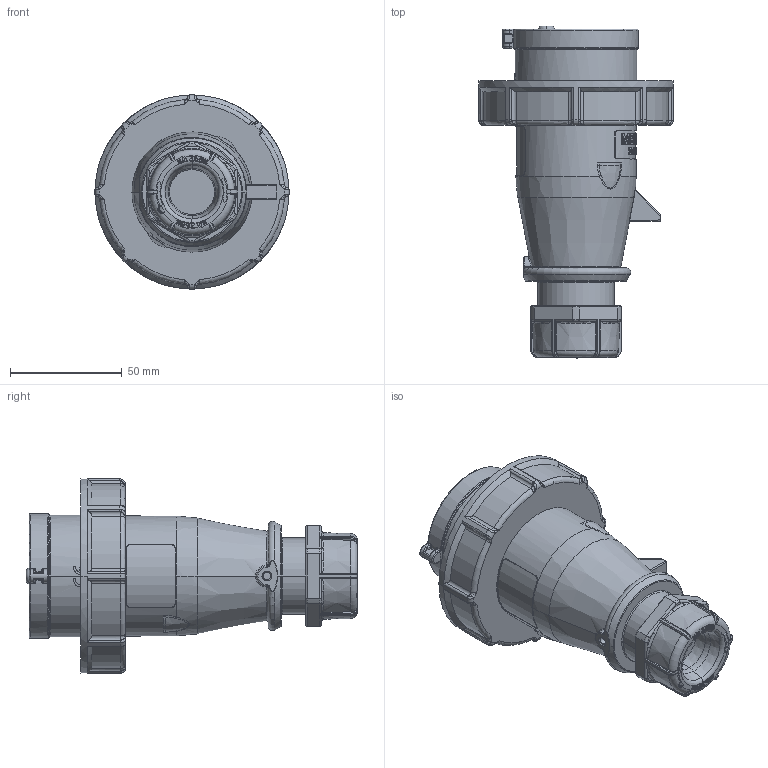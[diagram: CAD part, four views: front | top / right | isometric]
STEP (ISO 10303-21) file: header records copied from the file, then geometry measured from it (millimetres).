
FILE_DESCRIPTION((''),'2;1');
FILE_NAME('3777_DUMMY_SW0001','2018-01-26T',('gisse'),('MENNEKES'),'PRO/ENGINEER BY PARAMETRIC TECHNOLOGY CORPORATION, 2015440','PRO/ENGINEER BY PARAMETRIC TECHNOLOGY CORPORATION, 2015440','');
FILE_SCHEMA(('AUTOMOTIVE_DESIGN { 1 0 10303 214 1 1 1 1 }'));
Length unit declared in the file: millimetre
Products named in the file (1): 3777_DUMMY_SW0001
Bounding box: 87 x 148.7 x 87 mm (x, y, z)
Volume: 270930.2 mm3; surface area: 50468.9 mm2
Topology: 1 solids, 1 shells, 1944 faces, 5232 edges, 3369 vertices
Faces by surface type: plane 1056, cylinder 274, extrusion 248, bspline 144, torus 125, cone 94, sphere 2, revolution 1
Entity records: 93066 total; most frequent: CARTESIAN_POINT 23515, ORIENTED_EDGE 10452, DIRECTION 8244, EDGE_CURVE 5226, FILL_AREA_STYLE_COLOUR 3622, FILL_AREA_STYLE 3622, SURFACE_STYLE_FILL_AREA 3622, SURFACE_SIDE_STYLE 3622
